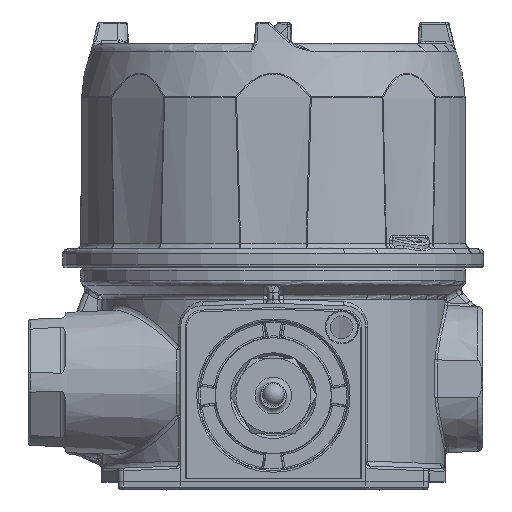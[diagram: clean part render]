
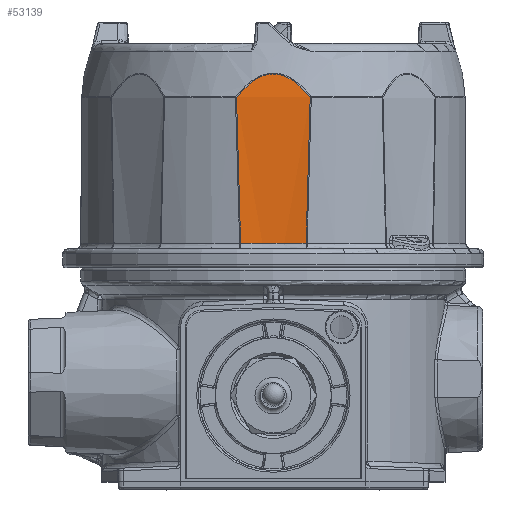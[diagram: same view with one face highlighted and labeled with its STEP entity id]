
A CAD part, top view. The second image highlights one B-rep face of the part: STEP entity #53139.
In plain terms, the highlighted conical face has half-angle 0.5 degrees and reference radius 83.16 mm.
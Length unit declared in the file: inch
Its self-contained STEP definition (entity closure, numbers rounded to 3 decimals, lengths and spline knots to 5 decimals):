
#4597 = CARTESIAN_POINT ( 'NONE',  ( 0.38208, 2.87234, 2.2461 ) ) ;
#4800 = CARTESIAN_POINT ( 'NONE',  ( 0.08653, 4.83432, 2.20755 ) ) ;
#4963 = CARTESIAN_POINT ( 'NONE',  ( 0.38206, 2.87175, 2.24611 ) ) ;
#5541 = CARTESIAN_POINT ( 'NONE',  ( -0.28008, 4.72908, 2.21921 ) ) ;
#5549 = DIRECTION ( 'NONE',  ( 0., -1., 0. ) ) ;
#6042 = EDGE_CURVE ( 'NONE', #43533, #31103, #7616, .T. ) ;
#6056 = B_SPLINE_CURVE_WITH_KNOTS ( 'NONE', 3,
 ( #34342, #4963, #56207, #4597 ),
 .UNSPECIFIED., .F., .F.,
 ( 4, 4 ),
 ( 0., 0.00002 ),
 .UNSPECIFIED. ) ;
#6822 = FACE_OUTER_BOUND ( 'NONE', #42209, .T. ) ;
#7616 = CIRCLE ( 'NONE', #17234, 3.25367 ) ;
#9203 = CARTESIAN_POINT ( 'NONE',  ( -0.38206, 2.87145, 2.24611 ) ) ;
#9301 = CARTESIAN_POINT ( 'NONE',  ( -0.38208, 2.87234, 2.2461 ) ) ;
#11204 = CARTESIAN_POINT ( 'NONE',  ( -0.04485, 4.84258, 2.20664 ) ) ;
#13421 = CARTESIAN_POINT ( 'NONE',  ( 0.38208, 2.87234, 2.2461 ) ) ;
#14185 = CONICAL_SURFACE ( 'NONE', #69491, 3.274, 0.009 ) ;
#14573 = CARTESIAN_POINT ( 'NONE',  ( 0.4145, 4.0042, 2.24011 ) ) ;
#14940 = ORIENTED_EDGE ( 'NONE', *, *, #53063, .T. ) ;
#16100 = CARTESIAN_POINT ( 'NONE',  ( -0.22665, 4.76816, 2.21486 ) ) ;
#16469 = CARTESIAN_POINT ( 'NONE',  ( -0.37362, 4.63765, 2.22946 ) ) ;
#16847 = CARTESIAN_POINT ( 'NONE',  ( 0.02129, 4.84441, 2.20643 ) ) ;
#16890 = CARTESIAN_POINT ( 'NONE',  ( 0.42941, 4.57016, 2.23711 ) ) ;
#17215 = CARTESIAN_POINT ( 'NONE',  ( -0.31254, 4.69988, 2.22247 ) ) ;
#17234 = AXIS2_PLACEMENT_3D ( 'NONE', #56784, #5549, #33441 ) ;
#18821 = B_SPLINE_CURVE_WITH_KNOTS ( 'NONE', 3,
 ( #48466, #71446, #60897, #9301 ),
 .UNSPECIFIED., .F., .F.,
 ( 4, 4 ),
 ( 0., 0.04314 ),
 .UNSPECIFIED. ) ;
#19746 = CARTESIAN_POINT ( 'NONE',  ( -0.38207, 2.87205, 2.24611 ) ) ;
#20512 = CARTESIAN_POINT ( 'NONE',  ( -0.38206, 2.87175, 2.24611 ) ) ;
#22155 = CARTESIAN_POINT ( 'NONE',  ( 0.20759, 4.78065, 2.21348 ) ) ;
#22745 = ORIENTED_EDGE ( 'NONE', *, *, #6042, .T. ) ;
#22892 = CARTESIAN_POINT ( 'NONE',  ( -0.02303, 4.84485, 2.20639 ) ) ;
#23585 = ORIENTED_EDGE ( 'NONE', *, *, #41623, .T. ) ;
#23826 = EDGE_CURVE ( 'NONE', #25910, #43533, #36999, .T. ) ;
#23934 = VERTEX_POINT ( 'NONE', #71725 ) ;
#24494 = B_SPLINE_CURVE_WITH_KNOTS ( 'NONE', 3,
 ( #13421, #65035, #14573, #60520 ),
 .UNSPECIFIED., .F., .F.,
 ( 4, 4 ),
 ( 0., 0.04314 ),
 .UNSPECIFIED. ) ;
#24524 = EDGE_CURVE ( 'NONE', #23934, #25910, #18821, .T. ) ;
#25910 = VERTEX_POINT ( 'NONE', #38972 ) ;
#27434 = CARTESIAN_POINT ( 'NONE',  ( 0.22595, 4.76863, 2.21481 ) ) ;
#27800 = CARTESIAN_POINT ( 'NONE',  ( 0.10761, 4.8281, 2.20823 ) ) ;
#28546 = CARTESIAN_POINT ( 'NONE',  ( -0.10939, 4.82751, 2.2083 ) ) ;
#31103 = VERTEX_POINT ( 'NONE', #55273 ) ;
#33066 = CARTESIAN_POINT ( 'NONE',  ( -0.17008, 4.8019, 2.21112 ) ) ;
#33434 = CARTESIAN_POINT ( 'NONE',  ( 0.27897, 4.72997, 2.21911 ) ) ;
#33441 = DIRECTION ( 'NONE',  ( 0., 0., -1. ) ) ;
#33813 = CARTESIAN_POINT ( 'NONE',  ( 0.16907, 4.80243, 2.21107 ) ) ;
#34342 = CARTESIAN_POINT ( 'NONE',  ( 0.38206, 2.87145, 2.24611 ) ) ;
#35522 = B_SPLINE_CURVE_WITH_KNOTS ( 'NONE', 3,
 ( #74114, #56416, #73733, #45493, #33434, #27434, #22155, #33813, #57142, #27800, #4800, #39851, #56777, #16847, #50754, #22892, #11204, #73371, #28546, #45135, #33066, #68089, #16100, #5541, #17215, #16469, #50383, #39473 ),
 .UNSPECIFIED., .F., .F.,
 ( 4, 2, 2, 2, 2, 2, 2, 2, 2, 2, 2, 2, 2, 4 ),
 ( 0., 0.00336, 0.00673, 0.00841, 0.01009, 0.01177, 0.01261, 0.01345, 0.01514, 0.01682, 0.0185, 0.02018, 0.02355, 0.02691 ),
 .UNSPECIFIED. ) ;
#35865 = VERTEX_POINT ( 'NONE', #16890 ) ;
#36999 = B_SPLINE_CURVE_WITH_KNOTS ( 'NONE', 3,
 ( #54776, #19746, #20512, #9203 ),
 .UNSPECIFIED., .F., .F.,
 ( 4, 4 ),
 ( 0., 0.00002 ),
 .UNSPECIFIED. ) ;
#37671 = VERTEX_POINT ( 'NONE', #46115 ) ;
#37724 = ORIENTED_EDGE ( 'NONE', *, *, #23826, .T. ) ;
#38972 = CARTESIAN_POINT ( 'NONE',  ( -0.38208, 2.87234, 2.2461 ) ) ;
#39473 = CARTESIAN_POINT ( 'NONE',  ( -0.42941, 4.57016, 2.23711 ) ) ;
#39851 = CARTESIAN_POINT ( 'NONE',  ( 0.05421, 4.84065, 2.20685 ) ) ;
#39869 = ORIENTED_EDGE ( 'NONE', *, *, #61827, .T. ) ;
#41623 = EDGE_CURVE ( 'NONE', #37671, #35865, #24494, .T. ) ;
#42209 = EDGE_LOOP ( 'NONE', ( #22745, #14940, #23585, #39869, #57980, #37724 ) ) ;
#43533 = VERTEX_POINT ( 'NONE', #57020 ) ;
#45135 = CARTESIAN_POINT ( 'NONE',  ( -0.15039, 4.81148, 2.21007 ) ) ;
#45493 = CARTESIAN_POINT ( 'NONE',  ( 0.31159, 4.70079, 2.22237 ) ) ;
#46115 = CARTESIAN_POINT ( 'NONE',  ( 0.38208, 2.87234, 2.2461 ) ) ;
#47865 = DIRECTION ( 'NONE',  ( 0., 0., -1. ) ) ;
#48466 = CARTESIAN_POINT ( 'NONE',  ( -0.42941, 4.57016, 2.23711 ) ) ;
#50383 = CARTESIAN_POINT ( 'NONE',  ( -0.40219, 4.60458, 2.2332 ) ) ;
#50754 = CARTESIAN_POINT ( 'NONE',  ( 0.01011, 4.84494, 2.20638 ) ) ;
#52765 = CARTESIAN_POINT ( 'NONE',  ( 0., 5.201, 5.47727 ) ) ;
#53063 = EDGE_CURVE ( 'NONE', #31103, #37671, #6056, .T. ) ;
#53139 = ADVANCED_FACE ( 'NONE', ( #6822 ), #14185, .F. ) ;
#54776 = CARTESIAN_POINT ( 'NONE',  ( -0.38208, 2.87234, 2.2461 ) ) ;
#55273 = CARTESIAN_POINT ( 'NONE',  ( 0.38206, 2.87145, 2.24611 ) ) ;
#56207 = CARTESIAN_POINT ( 'NONE',  ( 0.38207, 2.87205, 2.24611 ) ) ;
#56416 = CARTESIAN_POINT ( 'NONE',  ( 0.40211, 4.60468, 2.23319 ) ) ;
#56777 = CARTESIAN_POINT ( 'NONE',  ( 0.04332, 4.84226, 2.20667 ) ) ;
#56784 = CARTESIAN_POINT ( 'NONE',  ( 0., 2.87145, 5.47727 ) ) ;
#57020 = CARTESIAN_POINT ( 'NONE',  ( -0.38206, 2.87145, 2.24611 ) ) ;
#57142 = CARTESIAN_POINT ( 'NONE',  ( 0.14896, 4.81213, 2.20999 ) ) ;
#57980 = ORIENTED_EDGE ( 'NONE', *, *, #24524, .T. ) ;
#60520 = CARTESIAN_POINT ( 'NONE',  ( 0.42941, 4.57016, 2.23711 ) ) ;
#60897 = CARTESIAN_POINT ( 'NONE',  ( -0.39883, 3.43826, 2.24311 ) ) ;
#61827 = EDGE_CURVE ( 'NONE', #35865, #23934, #35522, .T. ) ;
#65035 = CARTESIAN_POINT ( 'NONE',  ( 0.39883, 3.43826, 2.24311 ) ) ;
#68089 = CARTESIAN_POINT ( 'NONE',  ( -0.20819, 4.78027, 2.21352 ) ) ;
#69491 = AXIS2_PLACEMENT_3D ( 'NONE', #52765, #70851, #47865 ) ;
#70851 = DIRECTION ( 'NONE',  ( 0., 1., 0. ) ) ;
#71446 = CARTESIAN_POINT ( 'NONE',  ( -0.4145, 4.0042, 2.24011 ) ) ;
#71725 = CARTESIAN_POINT ( 'NONE',  ( -0.42941, 4.57016, 2.23711 ) ) ;
#73371 = CARTESIAN_POINT ( 'NONE',  ( -0.08794, 4.83395, 2.20759 ) ) ;
#73733 = CARTESIAN_POINT ( 'NONE',  ( 0.37332, 4.63801, 2.22942 ) ) ;
#74114 = CARTESIAN_POINT ( 'NONE',  ( 0.42941, 4.57016, 2.23711 ) ) ;
